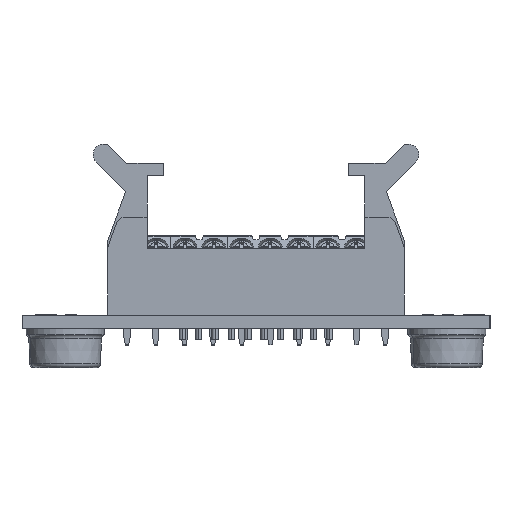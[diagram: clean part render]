
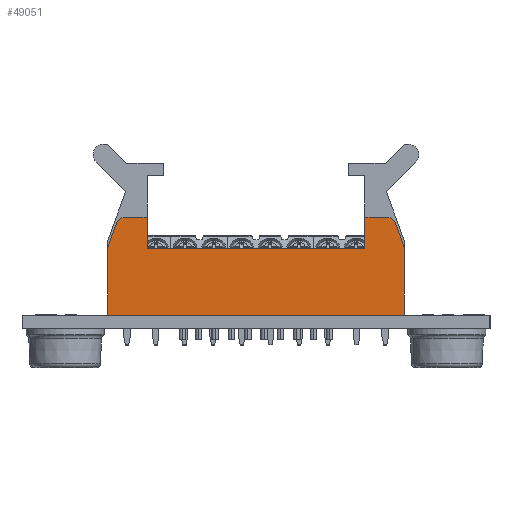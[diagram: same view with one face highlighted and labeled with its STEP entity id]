
A CAD part, left-side view. The second image highlights one B-rep face of the part: STEP entity #49051.
In plain terms, the highlighted planar face has unit normal (-1, 0, 0) as drawn and (0, 0, -1) by its records, which use the part's own axes.
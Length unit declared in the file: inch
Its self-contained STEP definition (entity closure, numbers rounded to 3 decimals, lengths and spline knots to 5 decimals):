
#660 = EDGE_LOOP ( 'NONE', ( #5865, #99021, #78439, #53855, #15010, #63015, #7764, #38006, #7540, #95728, #109055, #47818, #121748, #15053 ) ) ;
#3292 = PLANE ( 'NONE',  #53297 ) ;
#5865 = ORIENTED_EDGE ( 'NONE', *, *, #98200, .F. ) ;
#7540 = ORIENTED_EDGE ( 'NONE', *, *, #55040, .F. ) ;
#7764 = ORIENTED_EDGE ( 'NONE', *, *, #54118, .T. ) ;
#9198 = VECTOR ( 'NONE', #37321, 39.37008 ) ;
#9364 = DIRECTION ( 'NONE',  ( 0., 0., -1. ) ) ;
#10447 = EDGE_CURVE ( 'NONE', #122488, #88673, #121229, .T. ) ;
#11700 = VECTOR ( 'NONE', #70207, 39.37008 ) ;
#12847 = DIRECTION ( 'NONE',  ( 1., 0., 0. ) ) ;
#13266 = LINE ( 'NONE', #33262, #11700 ) ;
#14613 = VERTEX_POINT ( 'NONE', #89055 ) ;
#15010 = ORIENTED_EDGE ( 'NONE', *, *, #68805, .F. ) ;
#15053 = ORIENTED_EDGE ( 'NONE', *, *, #42722, .F. ) ;
#15325 = VERTEX_POINT ( 'NONE', #47640 ) ;
#15606 = VERTEX_POINT ( 'NONE', #89118 ) ;
#17065 = VERTEX_POINT ( 'NONE', #51297 ) ;
#17152 = CARTESIAN_POINT ( 'NONE',  ( -0.7126, 0.23524, -0.12008 ) ) ;
#20611 = CARTESIAN_POINT ( 'NONE',  ( 0.66938, 0.20933, -0.12008 ) ) ;
#20930 = VERTEX_POINT ( 'NONE', #20611 ) ;
#21959 = VECTOR ( 'NONE', #100616, 39.37008 ) ;
#22116 = LINE ( 'NONE', #41765, #78568 ) ;
#22220 = CIRCLE ( 'NONE', #31406, 0.03937 ) ;
#23562 = CARTESIAN_POINT ( 'NONE',  ( 0.63239, 0.19587, -0.12008 ) ) ;
#24211 = VERTEX_POINT ( 'NONE', #84407 ) ;
#24263 = LINE ( 'NONE', #46699, #85181 ) ;
#24963 = CARTESIAN_POINT ( 'NONE',  ( -0.67323, 0.08366, -0.12008 ) ) ;
#26523 = CARTESIAN_POINT ( 'NONE',  ( 0.67323, 0.08366, -0.12008 ) ) ;
#26587 = DIRECTION ( 'NONE',  ( -1., 0., 0. ) ) ;
#27299 = AXIS2_PLACEMENT_3D ( 'NONE', #23562, #42288, #71699 ) ;
#27801 = VECTOR ( 'NONE', #81122, 39.37008 ) ;
#29227 = VERTEX_POINT ( 'NONE', #62296 ) ;
#31406 = AXIS2_PLACEMENT_3D ( 'NONE', #123231, #9364, #37588 ) ;
#32968 = VECTOR ( 'NONE', #45750, 39.37008 ) ;
#33262 = CARTESIAN_POINT ( 'NONE',  ( -0.7126, 0.23524, -0.12008 ) ) ;
#35337 = DIRECTION ( 'NONE',  ( 0., 0., -1. ) ) ;
#35749 = DIRECTION ( 'NONE',  ( 1., 0., 0. ) ) ;
#37321 = DIRECTION ( 'NONE',  ( 0.342, -0.94, 0. ) ) ;
#37588 = DIRECTION ( 'NONE',  ( -1., 0., 0. ) ) ;
#37969 = DIRECTION ( 'NONE',  ( -1., 0., 0. ) ) ;
#38006 = ORIENTED_EDGE ( 'NONE', *, *, #50637, .T. ) ;
#41497 = DIRECTION ( 'NONE',  ( 0., 0., 1. ) ) ;
#41625 = FACE_OUTER_BOUND ( 'NONE', #660, .T. ) ;
#41765 = CARTESIAN_POINT ( 'NONE',  ( 0.7126, 0.23524, -0.12008 ) ) ;
#42288 = DIRECTION ( 'NONE',  ( 0., 0., -1. ) ) ;
#42722 = EDGE_CURVE ( 'NONE', #70372, #15606, #118572, .T. ) ;
#43770 = CIRCLE ( 'NONE', #27299, 0.03937 ) ;
#45193 = CARTESIAN_POINT ( 'NONE',  ( -0.52362, 0.08366, -0.12008 ) ) ;
#45750 = DIRECTION ( 'NONE',  ( -1., 0., 0. ) ) ;
#46699 = CARTESIAN_POINT ( 'NONE',  ( -0.7126, 0.23524, -0.12008 ) ) ;
#47640 = CARTESIAN_POINT ( 'NONE',  ( 0.52362, 0.23524, -0.12008 ) ) ;
#47818 = ORIENTED_EDGE ( 'NONE', *, *, #58993, .T. ) ;
#48554 = CIRCLE ( 'NONE', #70912, 0.03937 ) ;
#48715 = VECTOR ( 'NONE', #35749, 39.37008 ) ;
#49024 = CARTESIAN_POINT ( 'NONE',  ( -0.7126, -0.23524, -0.12008 ) ) ;
#49051 = ADVANCED_FACE ( 'NONE', ( #41625 ), #3292, .F. ) ;
#50637 = EDGE_CURVE ( 'NONE', #85891, #15325, #69337, .T. ) ;
#51297 = CARTESIAN_POINT ( 'NONE',  ( -0.63239, 0.23524, -0.12008 ) ) ;
#52111 = CARTESIAN_POINT ( 'NONE',  ( 0.52362, 0.23524, -0.12008 ) ) ;
#52990 = CARTESIAN_POINT ( 'NONE',  ( -0.66938, 0.20933, -0.12008 ) ) ;
#53297 = AXIS2_PLACEMENT_3D ( 'NONE', #69661, #41497, #12847 ) ;
#53855 = ORIENTED_EDGE ( 'NONE', *, *, #114897, .T. ) ;
#54118 = EDGE_CURVE ( 'NONE', #24211, #85891, #77806, .T. ) ;
#55040 = EDGE_CURVE ( 'NONE', #97816, #15325, #58229, .T. ) ;
#56364 = CARTESIAN_POINT ( 'NONE',  ( 0.71022, 0.09713, -0.12008 ) ) ;
#56461 = CARTESIAN_POINT ( 'NONE',  ( -0.71022, 0.09713, -0.12008 ) ) ;
#56465 = CARTESIAN_POINT ( 'NONE',  ( -0.7126, -0.23524, -0.12008 ) ) ;
#58080 = VECTOR ( 'NONE', #120254, 39.37008 ) ;
#58229 = LINE ( 'NONE', #17152, #32968 ) ;
#58993 = EDGE_CURVE ( 'NONE', #63871, #14613, #48554, .T. ) ;
#59328 = EDGE_CURVE ( 'NONE', #97816, #20930, #43770, .T. ) ;
#60780 = DIRECTION ( 'NONE',  ( 0., 1., 0. ) ) ;
#62275 = VERTEX_POINT ( 'NONE', #52990 ) ;
#62296 = CARTESIAN_POINT ( 'NONE',  ( -0.52362, 0.23524, -0.12008 ) ) ;
#63015 = ORIENTED_EDGE ( 'NONE', *, *, #78678, .T. ) ;
#63871 = VERTEX_POINT ( 'NONE', #56364 ) ;
#66073 = VECTOR ( 'NONE', #120463, 39.37008 ) ;
#68805 = EDGE_CURVE ( 'NONE', #29227, #17065, #24263, .T. ) ;
#69337 = LINE ( 'NONE', #52111, #27801 ) ;
#69661 = CARTESIAN_POINT ( 'NONE',  ( 0., 0., -0.12008 ) ) ;
#70207 = DIRECTION ( 'NONE',  ( 0., -1., 0. ) ) ;
#70372 = VERTEX_POINT ( 'NONE', #49024 ) ;
#70912 = AXIS2_PLACEMENT_3D ( 'NONE', #26523, #111321, #83417 ) ;
#71699 = DIRECTION ( 'NONE',  ( -1., 0., 0. ) ) ;
#73829 = CARTESIAN_POINT ( 'NONE',  ( 0.66938, 0.20933, -0.12008 ) ) ;
#75534 = CARTESIAN_POINT ( 'NONE',  ( 0.63239, 0.23524, -0.12008 ) ) ;
#77806 = LINE ( 'NONE', #45193, #66073 ) ;
#78439 = ORIENTED_EDGE ( 'NONE', *, *, #81577, .T. ) ;
#78568 = VECTOR ( 'NONE', #60780, 39.37008 ) ;
#78678 = EDGE_CURVE ( 'NONE', #29227, #24211, #117086, .T. ) ;
#81122 = DIRECTION ( 'NONE',  ( 0., 1., 0. ) ) ;
#81577 = EDGE_CURVE ( 'NONE', #88673, #62275, #119051, .T. ) ;
#83417 = DIRECTION ( 'NONE',  ( -1., 0., 0. ) ) ;
#84407 = CARTESIAN_POINT ( 'NONE',  ( -0.52362, 0.08366, -0.12008 ) ) ;
#85181 = VECTOR ( 'NONE', #37969, 39.37008 ) ;
#85891 = VERTEX_POINT ( 'NONE', #110089 ) ;
#88673 = VERTEX_POINT ( 'NONE', #56461 ) ;
#89055 = CARTESIAN_POINT ( 'NONE',  ( 0.7126, 0.08366, -0.12008 ) ) ;
#89118 = CARTESIAN_POINT ( 'NONE',  ( 0.7126, -0.23524, -0.12008 ) ) ;
#89413 = EDGE_CURVE ( 'NONE', #15606, #14613, #22116, .T. ) ;
#92275 = CARTESIAN_POINT ( 'NONE',  ( -0.52362, 0.23524, -0.12008 ) ) ;
#95728 = ORIENTED_EDGE ( 'NONE', *, *, #59328, .T. ) ;
#97816 = VERTEX_POINT ( 'NONE', #75534 ) ;
#98200 = EDGE_CURVE ( 'NONE', #122488, #70372, #13266, .T. ) ;
#98385 = LINE ( 'NONE', #73829, #9198 ) ;
#99021 = ORIENTED_EDGE ( 'NONE', *, *, #10447, .T. ) ;
#100616 = DIRECTION ( 'NONE',  ( 0., -1., 0. ) ) ;
#106423 = EDGE_CURVE ( 'NONE', #20930, #63871, #98385, .T. ) ;
#109055 = ORIENTED_EDGE ( 'NONE', *, *, #106423, .T. ) ;
#110089 = CARTESIAN_POINT ( 'NONE',  ( 0.52362, 0.08366, -0.12008 ) ) ;
#110292 = CARTESIAN_POINT ( 'NONE',  ( -0.71022, 0.09713, -0.12008 ) ) ;
#111321 = DIRECTION ( 'NONE',  ( 0., 0., -1. ) ) ;
#114313 = CARTESIAN_POINT ( 'NONE',  ( -0.7126, 0.08366, -0.12008 ) ) ;
#114897 = EDGE_CURVE ( 'NONE', #62275, #17065, #22220, .T. ) ;
#117086 = LINE ( 'NONE', #92275, #21959 ) ;
#118572 = LINE ( 'NONE', #56465, #48715 ) ;
#119051 = LINE ( 'NONE', #110292, #58080 ) ;
#119553 = AXIS2_PLACEMENT_3D ( 'NONE', #24963, #35337, #26587 ) ;
#120254 = DIRECTION ( 'NONE',  ( 0.342, 0.94, 0. ) ) ;
#120463 = DIRECTION ( 'NONE',  ( 1., 0., 0. ) ) ;
#121229 = CIRCLE ( 'NONE', #119553, 0.03937 ) ;
#121748 = ORIENTED_EDGE ( 'NONE', *, *, #89413, .F. ) ;
#122488 = VERTEX_POINT ( 'NONE', #114313 ) ;
#123231 = CARTESIAN_POINT ( 'NONE',  ( -0.63239, 0.19587, -0.12008 ) ) ;
